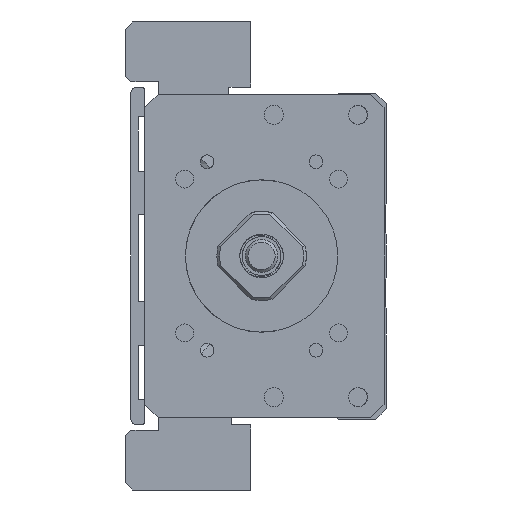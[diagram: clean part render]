
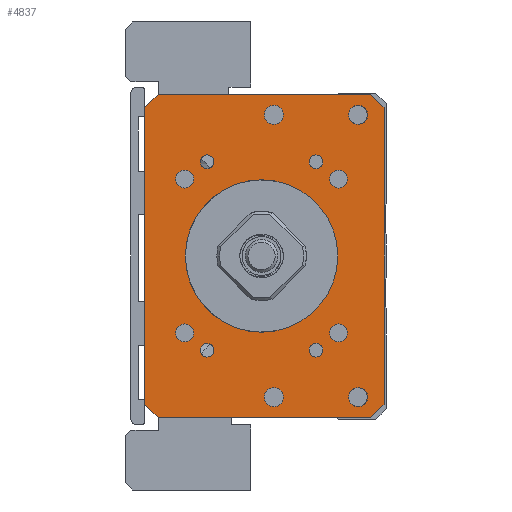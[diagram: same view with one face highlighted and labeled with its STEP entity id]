
A CAD part, left-side view. The second image highlights one B-rep face of the part: STEP entity #4837.
In plain terms, the highlighted planar face has unit normal (-1, 0, 0).
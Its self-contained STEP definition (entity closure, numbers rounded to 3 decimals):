
#4837=ADVANCED_FACE('',(#7771,#7772,#7773,#7774,#7775,#7776,#7777,#7778,
#7779,#7780,#7781,#7782,#7783,#7784),#5416,.F.);
#5416=PLANE('',#15208);
#5955=LINE('',#20130,#6888);
#5957=LINE('',#20154,#6890);
#5958=LINE('',#20156,#6891);
#5959=LINE('',#20158,#6892);
#5960=LINE('',#20160,#6893);
#5961=LINE('',#20162,#6894);
#5962=LINE('',#20164,#6895);
#5963=LINE('',#20166,#6896);
#6888=VECTOR('',#16812,1.);
#6890=VECTOR('',#16836,1.);
#6891=VECTOR('',#16837,1.);
#6892=VECTOR('',#16838,1.);
#6893=VECTOR('',#16839,1.);
#6894=VECTOR('',#16840,1.);
#6895=VECTOR('',#16841,1.);
#6896=VECTOR('',#16842,1.);
#7771=FACE_BOUND('',#8332,.T.);
#7772=FACE_BOUND('',#8333,.T.);
#7773=FACE_BOUND('',#8334,.T.);
#7774=FACE_BOUND('',#8335,.T.);
#7775=FACE_BOUND('',#8336,.T.);
#7776=FACE_BOUND('',#8337,.T.);
#7777=FACE_BOUND('',#8338,.T.);
#7778=FACE_BOUND('',#8339,.T.);
#7779=FACE_BOUND('',#8340,.T.);
#7780=FACE_BOUND('',#8341,.T.);
#7781=FACE_BOUND('',#8342,.T.);
#7782=FACE_BOUND('',#8343,.T.);
#7783=FACE_BOUND('',#8344,.T.);
#7784=FACE_BOUND('',#8345,.T.);
#8332=EDGE_LOOP('',(#9782));
#8333=EDGE_LOOP('',(#9783));
#8334=EDGE_LOOP('',(#9784));
#8335=EDGE_LOOP('',(#9785));
#8336=EDGE_LOOP('',(#9786));
#8337=EDGE_LOOP('',(#9787));
#8338=EDGE_LOOP('',(#9788));
#8339=EDGE_LOOP('',(#9789));
#8340=EDGE_LOOP('',(#9790));
#8341=EDGE_LOOP('',(#9791,#9792,#9793,#9794,#9795,#9796,#9797,#9798));
#8342=EDGE_LOOP('',(#9799));
#8343=EDGE_LOOP('',(#9800));
#8344=EDGE_LOOP('',(#9801));
#8345=EDGE_LOOP('',(#9802));
#9782=ORIENTED_EDGE('',*,*,#13420,.F.);
#9783=ORIENTED_EDGE('',*,*,#13421,.F.);
#9784=ORIENTED_EDGE('',*,*,#13422,.F.);
#9785=ORIENTED_EDGE('',*,*,#13423,.F.);
#9786=ORIENTED_EDGE('',*,*,#13424,.F.);
#9787=ORIENTED_EDGE('',*,*,#13425,.T.);
#9788=ORIENTED_EDGE('',*,*,#13426,.F.);
#9789=ORIENTED_EDGE('',*,*,#13427,.F.);
#9790=ORIENTED_EDGE('',*,*,#13428,.F.);
#9791=ORIENTED_EDGE('',*,*,#13417,.T.);
#9792=ORIENTED_EDGE('',*,*,#13429,.T.);
#9793=ORIENTED_EDGE('',*,*,#13430,.F.);
#9794=ORIENTED_EDGE('',*,*,#13431,.T.);
#9795=ORIENTED_EDGE('',*,*,#13432,.F.);
#9796=ORIENTED_EDGE('',*,*,#13433,.T.);
#9797=ORIENTED_EDGE('',*,*,#13434,.T.);
#9798=ORIENTED_EDGE('',*,*,#13435,.T.);
#9799=ORIENTED_EDGE('',*,*,#13436,.F.);
#9800=ORIENTED_EDGE('',*,*,#13437,.F.);
#9801=ORIENTED_EDGE('',*,*,#13438,.F.);
#9802=ORIENTED_EDGE('',*,*,#13397,.F.);
#12244=VERTEX_POINT('',#20069);
#12264=VERTEX_POINT('',#20129);
#12265=VERTEX_POINT('',#20131);
#12267=VERTEX_POINT('',#20137);
#12268=VERTEX_POINT('',#20139);
#12269=VERTEX_POINT('',#20141);
#12270=VERTEX_POINT('',#20143);
#12271=VERTEX_POINT('',#20145);
#12272=VERTEX_POINT('',#20147);
#12273=VERTEX_POINT('',#20149);
#12274=VERTEX_POINT('',#20151);
#12275=VERTEX_POINT('',#20153);
#12276=VERTEX_POINT('',#20155);
#12277=VERTEX_POINT('',#20157);
#12278=VERTEX_POINT('',#20159);
#12279=VERTEX_POINT('',#20161);
#12280=VERTEX_POINT('',#20163);
#12281=VERTEX_POINT('',#20165);
#12282=VERTEX_POINT('',#20168);
#12283=VERTEX_POINT('',#20170);
#12284=VERTEX_POINT('',#20172);
#13397=EDGE_CURVE('',#12244,#12244,#14631,.T.);
#13417=EDGE_CURVE('',#12265,#12264,#5955,.T.);
#13420=EDGE_CURVE('',#12267,#12267,#14640,.T.);
#13421=EDGE_CURVE('',#12268,#12268,#14641,.T.);
#13422=EDGE_CURVE('',#12269,#12269,#14642,.T.);
#13423=EDGE_CURVE('',#12270,#12270,#14643,.T.);
#13424=EDGE_CURVE('',#12271,#12271,#14644,.T.);
#13425=EDGE_CURVE('',#12272,#12272,#14645,.T.);
#13426=EDGE_CURVE('',#12273,#12273,#14646,.T.);
#13427=EDGE_CURVE('',#12274,#12274,#14647,.T.);
#13428=EDGE_CURVE('',#12275,#12275,#14648,.T.);
#13429=EDGE_CURVE('',#12264,#12276,#5957,.T.);
#13430=EDGE_CURVE('',#12277,#12276,#5958,.T.);
#13431=EDGE_CURVE('',#12277,#12278,#5959,.T.);
#13432=EDGE_CURVE('',#12279,#12278,#5960,.T.);
#13433=EDGE_CURVE('',#12279,#12280,#5961,.T.);
#13434=EDGE_CURVE('',#12280,#12281,#5962,.T.);
#13435=EDGE_CURVE('',#12281,#12265,#5963,.T.);
#13436=EDGE_CURVE('',#12282,#12282,#14649,.T.);
#13437=EDGE_CURVE('',#12283,#12283,#14650,.T.);
#13438=EDGE_CURVE('',#12284,#12284,#14651,.T.);
#14631=CIRCLE('',#15185,14.);
#14640=CIRCLE('',#15196,1.65);
#14641=CIRCLE('',#15197,1.65);
#14642=CIRCLE('',#15198,1.65);
#14643=CIRCLE('',#15199,1.65);
#14644=CIRCLE('',#15200,1.25);
#14645=CIRCLE('',#15201,1.75);
#14646=CIRCLE('',#15202,1.25);
#14647=CIRCLE('',#15203,1.75);
#14648=CIRCLE('',#15204,1.25);
#14649=CIRCLE('',#15205,1.75);
#14650=CIRCLE('',#15206,1.75);
#14651=CIRCLE('',#15207,1.25);
#15185=AXIS2_PLACEMENT_3D('',#20068,#16786,#16787);
#15196=AXIS2_PLACEMENT_3D('',#20136,#16818,#16819);
#15197=AXIS2_PLACEMENT_3D('',#20138,#16820,#16821);
#15198=AXIS2_PLACEMENT_3D('',#20140,#16822,#16823);
#15199=AXIS2_PLACEMENT_3D('',#20142,#16824,#16825);
#15200=AXIS2_PLACEMENT_3D('',#20144,#16826,#16827);
#15201=AXIS2_PLACEMENT_3D('',#20146,#16828,#16829);
#15202=AXIS2_PLACEMENT_3D('',#20148,#16830,#16831);
#15203=AXIS2_PLACEMENT_3D('',#20150,#16832,#16833);
#15204=AXIS2_PLACEMENT_3D('',#20152,#16834,#16835);
#15205=AXIS2_PLACEMENT_3D('',#20167,#16843,#16844);
#15206=AXIS2_PLACEMENT_3D('',#20169,#16845,#16846);
#15207=AXIS2_PLACEMENT_3D('',#20171,#16847,#16848);
#15208=AXIS2_PLACEMENT_3D('',#20173,#16849,#16850);
#16786=DIRECTION('',(-1.,0.,0.));
#16787=DIRECTION('',(0.,1.,0.));
#16812=DIRECTION('',(0.,0.,-1.));
#16818=DIRECTION('',(-1.,0.,0.));
#16819=DIRECTION('',(0.,0.,1.));
#16820=DIRECTION('',(-1.,0.,0.));
#16821=DIRECTION('',(0.,0.,1.));
#16822=DIRECTION('',(-1.,0.,0.));
#16823=DIRECTION('',(0.,0.,1.));
#16824=DIRECTION('',(-1.,0.,0.));
#16825=DIRECTION('',(0.,0.,1.));
#16826=DIRECTION('',(-1.,0.,0.));
#16827=DIRECTION('',(0.,1.,0.));
#16828=DIRECTION('',(1.,0.,0.));
#16829=DIRECTION('',(0.,0.,1.));
#16830=DIRECTION('',(-1.,0.,0.));
#16831=DIRECTION('',(0.,1.,0.));
#16832=DIRECTION('',(-1.,0.,0.));
#16833=DIRECTION('',(0.,0.,1.));
#16834=DIRECTION('',(-1.,0.,0.));
#16835=DIRECTION('',(0.,1.,0.));
#16836=DIRECTION('',(0.,-0.707,-0.707));
#16837=DIRECTION('',(0.,1.,0.));
#16838=DIRECTION('',(0.,-0.707,0.707));
#16839=DIRECTION('',(0.,0.,-1.));
#16840=DIRECTION('',(0.,0.707,0.707));
#16841=DIRECTION('',(0.,1.,0.));
#16842=DIRECTION('',(0.,0.707,-0.707));
#16843=DIRECTION('',(-1.,0.,0.));
#16844=DIRECTION('',(0.,0.,1.));
#16845=DIRECTION('',(-1.,0.,0.));
#16846=DIRECTION('',(0.,0.,1.));
#16847=DIRECTION('',(-1.,0.,0.));
#16848=DIRECTION('',(0.,1.,0.));
#16849=DIRECTION('',(1.,0.,0.));
#16850=DIRECTION('',(0.,1.,0.));
#20068=CARTESIAN_POINT('',(-211.,0.,-500.));
#20069=CARTESIAN_POINT('',(-211.,14.,-500.));
#20129=CARTESIAN_POINT('',(-211.,21.499,-527.25));
#20130=CARTESIAN_POINT('',(-211.,21.499,-470.25));
#20131=CARTESIAN_POINT('',(-211.,21.499,-472.75));
#20136=CARTESIAN_POINT('',(-211.,14.142,-485.858));
#20137=CARTESIAN_POINT('',(-211.,14.142,-484.208));
#20138=CARTESIAN_POINT('',(-211.,-14.142,-485.858));
#20139=CARTESIAN_POINT('',(-211.,-14.142,-484.208));
#20140=CARTESIAN_POINT('',(-211.,14.142,-514.142));
#20141=CARTESIAN_POINT('',(-211.,14.142,-512.492));
#20142=CARTESIAN_POINT('',(-211.,-14.142,-514.142));
#20143=CARTESIAN_POINT('',(-211.,-14.142,-512.492));
#20144=CARTESIAN_POINT('',(-211.,-10.,-517.321));
#20145=CARTESIAN_POINT('',(-211.,-8.75,-517.321));
#20146=CARTESIAN_POINT('',(-211.,-2.25,-525.936));
#20147=CARTESIAN_POINT('',(-211.,-2.25,-524.186));
#20148=CARTESIAN_POINT('',(-211.,10.,-482.679));
#20149=CARTESIAN_POINT('',(-211.,11.25,-482.679));
#20150=CARTESIAN_POINT('',(-211.,-2.25,-474.064));
#20151=CARTESIAN_POINT('',(-211.,-2.25,-472.314));
#20152=CARTESIAN_POINT('',(-211.,10.,-517.321));
#20153=CARTESIAN_POINT('',(-211.,11.25,-517.321));
#20154=CARTESIAN_POINT('',(-211.,18.999,-529.75));
#20155=CARTESIAN_POINT('',(-211.,18.999,-529.75));
#20156=CARTESIAN_POINT('',(-211.,-22.501,-529.75));
#20157=CARTESIAN_POINT('',(-211.,-20.001,-529.75));
#20158=CARTESIAN_POINT('',(-211.,-22.501,-527.25));
#20159=CARTESIAN_POINT('',(-211.,-22.501,-527.25));
#20160=CARTESIAN_POINT('',(-211.,-22.501,-470.25));
#20161=CARTESIAN_POINT('',(-211.,-22.501,-472.75));
#20162=CARTESIAN_POINT('',(-211.,-22.501,-472.75));
#20163=CARTESIAN_POINT('',(-211.,-20.001,-470.25));
#20164=CARTESIAN_POINT('',(-211.,-22.501,-470.25));
#20165=CARTESIAN_POINT('',(-211.,18.999,-470.25));
#20166=CARTESIAN_POINT('',(-211.,18.999,-470.25));
#20167=CARTESIAN_POINT('',(-211.,-17.75,-474.064));
#20168=CARTESIAN_POINT('',(-211.,-17.75,-472.314));
#20169=CARTESIAN_POINT('',(-211.,-17.75,-525.936));
#20170=CARTESIAN_POINT('',(-211.,-17.75,-524.186));
#20171=CARTESIAN_POINT('',(-211.,-10.,-482.679));
#20172=CARTESIAN_POINT('',(-211.,-8.75,-482.679));
#20173=CARTESIAN_POINT('',(-211.,-22.501,-470.25));
